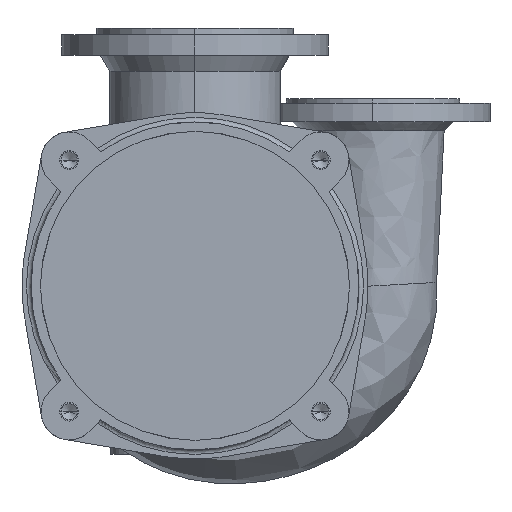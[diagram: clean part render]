
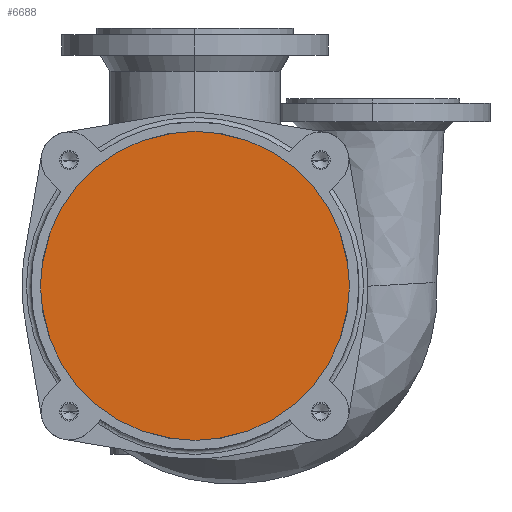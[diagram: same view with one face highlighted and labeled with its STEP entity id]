
A CAD part, front view. The second image highlights one B-rep face of the part: STEP entity #6688.
In plain terms, the highlighted planar face has unit normal (0, -1, 0).
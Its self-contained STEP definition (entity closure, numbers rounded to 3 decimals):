
#1=CARTESIAN_POINT('',(0.,0.,0.));
#2=DIRECTION('',(0.,-1.,0.));
#3=DIRECTION('',(0.,0.,1.));
#4=AXIS2_PLACEMENT_3D('',#1,#2,#3);
#6=CARTESIAN_POINT('',(0.,0.,0.));
#7=DIRECTION('',(0.,-1.,0.));
#8=DIRECTION('',(0.,0.,-1.));
#9=AXIS2_PLACEMENT_3D('',#6,#7,#8);
#5693=CARTESIAN_POINT('',(0.,0.,165.));
#5694=CARTESIAN_POINT('',(0.,0.,-165.));
#5695=VERTEX_POINT('',#5693);
#5696=VERTEX_POINT('',#5694);
#6677=CARTESIAN_POINT('',(0.,0.,0.));
#6678=DIRECTION('',(0.,1.,0.));
#6679=DIRECTION('',(0.,0.,-1.));
#6680=AXIS2_PLACEMENT_3D('',#6677,#6678,#6679);
#6681=PLANE('',#6680);
#6683=ORIENTED_EDGE('',*,*,#6682,.F.);
#6685=ORIENTED_EDGE('',*,*,#6684,.F.);
#6686=EDGE_LOOP('',(#6683,#6685));
#6687=FACE_OUTER_BOUND('',#6686,.F.);
#6688=ADVANCED_FACE('',(#6687),#6681,.F.);
#5=CIRCLE('',#4,165.);
#10=CIRCLE('',#9,165.);
#6682=EDGE_CURVE('',#5695,#5696,#5,.T.);
#6684=EDGE_CURVE('',#5696,#5695,#10,.T.);
